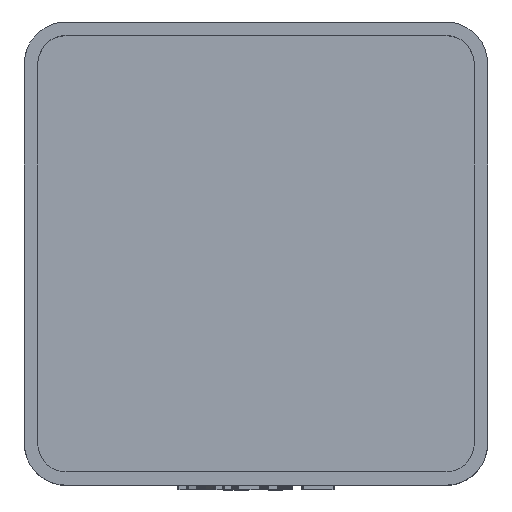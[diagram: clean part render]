
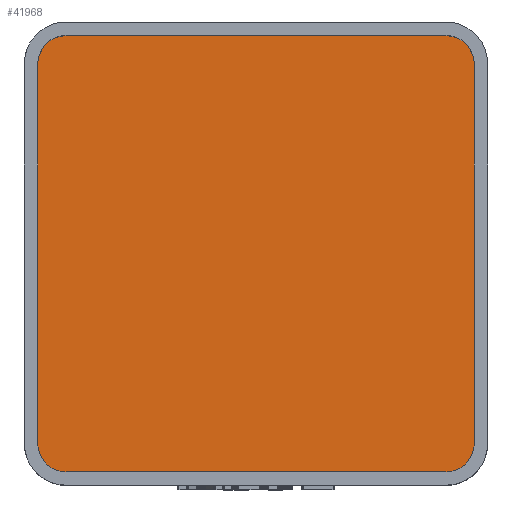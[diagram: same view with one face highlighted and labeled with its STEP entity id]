
A CAD part, top view. The second image highlights one B-rep face of the part: STEP entity #41968.
In plain terms, the highlighted planar face has unit normal (0, 0, 1).
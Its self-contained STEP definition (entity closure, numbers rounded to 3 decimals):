
#1442 = PLANE('',#1443);
#1443 = AXIS2_PLACEMENT_3D('',#1444,#1445,#1446);
#1444 = CARTESIAN_POINT('',(-19.55,-17.,4.75));
#1445 = DIRECTION('',(-1.,0.,0.));
#1446 = DIRECTION('',(0.,1.,0.));
#1474 = CYLINDRICAL_SURFACE('',#1475,2.55);
#1475 = AXIS2_PLACEMENT_3D('',#1476,#1477,#1478);
#1476 = CARTESIAN_POINT('',(-17.,17.,4.75));
#1477 = DIRECTION('',(-0.,-0.,-1.));
#1478 = DIRECTION('',(1.,0.,0.));
#1501 = PLANE('',#1502);
#1502 = AXIS2_PLACEMENT_3D('',#1503,#1504,#1505);
#1503 = CARTESIAN_POINT('',(-17.,19.55,4.75));
#1504 = DIRECTION('',(0.,1.,0.));
#1505 = DIRECTION('',(1.,0.,0.));
#1533 = CYLINDRICAL_SURFACE('',#1534,2.55);
#1534 = AXIS2_PLACEMENT_3D('',#1535,#1536,#1537);
#1535 = CARTESIAN_POINT('',(17.,17.,4.75));
#1536 = DIRECTION('',(-0.,-0.,-1.));
#1537 = DIRECTION('',(1.,0.,0.));
#1560 = PLANE('',#1561);
#1561 = AXIS2_PLACEMENT_3D('',#1562,#1563,#1564);
#1562 = CARTESIAN_POINT('',(19.55,-17.,4.75));
#1563 = DIRECTION('',(-1.,0.,0.));
#1564 = DIRECTION('',(0.,1.,0.));
#1592 = CYLINDRICAL_SURFACE('',#1593,2.55);
#1593 = AXIS2_PLACEMENT_3D('',#1594,#1595,#1596);
#1594 = CARTESIAN_POINT('',(17.,-17.,4.75));
#1595 = DIRECTION('',(-0.,-0.,-1.));
#1596 = DIRECTION('',(1.,0.,0.));
#1619 = PLANE('',#1620);
#1620 = AXIS2_PLACEMENT_3D('',#1621,#1622,#1623);
#1621 = CARTESIAN_POINT('',(-17.,-19.55,4.75));
#1622 = DIRECTION('',(0.,1.,0.));
#1623 = DIRECTION('',(1.,0.,0.));
#1649 = CYLINDRICAL_SURFACE('',#1650,2.55);
#1650 = AXIS2_PLACEMENT_3D('',#1651,#1652,#1653);
#1651 = CARTESIAN_POINT('',(-17.,-17.,4.75));
#1652 = DIRECTION('',(-0.,-0.,-1.));
#1653 = DIRECTION('',(1.,0.,0.));
#15571 = EDGE_CURVE('',#15572,#15574,#15576,.T.);
#15572 = VERTEX_POINT('',#15573);
#15573 = CARTESIAN_POINT('',(-19.55,-17.,4.75));
#15574 = VERTEX_POINT('',#15575);
#15575 = CARTESIAN_POINT('',(-19.55,17.,4.75));
#15576 = SURFACE_CURVE('',#15577,(#15581,#15588),.PCURVE_S1.);
#15577 = LINE('',#15578,#15579);
#15578 = CARTESIAN_POINT('',(-19.55,0.,4.75));
#15579 = VECTOR('',#15580,1.);
#15580 = DIRECTION('',(0.,1.,0.));
#15581 = PCURVE('',#1442,#15582);
#15582 = DEFINITIONAL_REPRESENTATION('',(#15583),#15587);
#15583 = LINE('',#15584,#15585);
#15584 = CARTESIAN_POINT('',(17.,0.));
#15585 = VECTOR('',#15586,1.);
#15586 = DIRECTION('',(1.,0.));
#15587 = ( GEOMETRIC_REPRESENTATION_CONTEXT(2) 
PARAMETRIC_REPRESENTATION_CONTEXT() REPRESENTATION_CONTEXT('2D SPACE',''
  ) );
#15588 = PCURVE('',#15589,#15594);
#15589 = PLANE('',#15590);
#15590 = AXIS2_PLACEMENT_3D('',#15591,#15592,#15593);
#15591 = CARTESIAN_POINT('',(0.,0.,4.75
    ));
#15592 = DIRECTION('',(0.,0.,1.));
#15593 = DIRECTION('',(1.,0.,-0.));
#15594 = DEFINITIONAL_REPRESENTATION('',(#15595),#15599);
#15595 = LINE('',#15596,#15597);
#15596 = CARTESIAN_POINT('',(-19.55,0.));
#15597 = VECTOR('',#15598,1.);
#15598 = DIRECTION('',(0.,1.));
#15599 = ( GEOMETRIC_REPRESENTATION_CONTEXT(2) 
PARAMETRIC_REPRESENTATION_CONTEXT() REPRESENTATION_CONTEXT('2D SPACE',''
  ) );
#15647 = EDGE_CURVE('',#15572,#15648,#15650,.T.);
#15648 = VERTEX_POINT('',#15649);
#15649 = CARTESIAN_POINT('',(-17.,-19.55,4.75));
#15650 = SURFACE_CURVE('',#15651,(#15656,#15663),.PCURVE_S1.);
#15651 = CIRCLE('',#15652,2.55);
#15652 = AXIS2_PLACEMENT_3D('',#15653,#15654,#15655);
#15653 = CARTESIAN_POINT('',(-17.,-17.,4.75));
#15654 = DIRECTION('',(0.,0.,1.));
#15655 = DIRECTION('',(1.,0.,0.));
#15656 = PCURVE('',#1649,#15657);
#15657 = DEFINITIONAL_REPRESENTATION('',(#15658),#15662);
#15658 = LINE('',#15659,#15660);
#15659 = CARTESIAN_POINT('',(-0.,0.));
#15660 = VECTOR('',#15661,1.);
#15661 = DIRECTION('',(-1.,0.));
#15662 = ( GEOMETRIC_REPRESENTATION_CONTEXT(2) 
PARAMETRIC_REPRESENTATION_CONTEXT() REPRESENTATION_CONTEXT('2D SPACE',''
  ) );
#15663 = PCURVE('',#15589,#15664);
#15664 = DEFINITIONAL_REPRESENTATION('',(#15665),#15669);
#15665 = CIRCLE('',#15666,2.55);
#15666 = AXIS2_PLACEMENT_2D('',#15667,#15668);
#15667 = CARTESIAN_POINT('',(-17.,-17.));
#15668 = DIRECTION('',(1.,0.));
#15669 = ( GEOMETRIC_REPRESENTATION_CONTEXT(2) 
PARAMETRIC_REPRESENTATION_CONTEXT() REPRESENTATION_CONTEXT('2D SPACE',''
  ) );
#15697 = EDGE_CURVE('',#15648,#15698,#15700,.T.);
#15698 = VERTEX_POINT('',#15699);
#15699 = CARTESIAN_POINT('',(17.,-19.55,4.75));
#15700 = SURFACE_CURVE('',#15701,(#15705,#15712),.PCURVE_S1.);
#15701 = LINE('',#15702,#15703);
#15702 = CARTESIAN_POINT('',(0.,-19.55,4.75));
#15703 = VECTOR('',#15704,1.);
#15704 = DIRECTION('',(1.,0.,0.));
#15705 = PCURVE('',#1619,#15706);
#15706 = DEFINITIONAL_REPRESENTATION('',(#15707),#15711);
#15707 = LINE('',#15708,#15709);
#15708 = CARTESIAN_POINT('',(17.,0.));
#15709 = VECTOR('',#15710,1.);
#15710 = DIRECTION('',(1.,0.));
#15711 = ( GEOMETRIC_REPRESENTATION_CONTEXT(2) 
PARAMETRIC_REPRESENTATION_CONTEXT() REPRESENTATION_CONTEXT('2D SPACE',''
  ) );
#15712 = PCURVE('',#15589,#15713);
#15713 = DEFINITIONAL_REPRESENTATION('',(#15714),#15718);
#15714 = LINE('',#15715,#15716);
#15715 = CARTESIAN_POINT('',(0.,-19.55));
#15716 = VECTOR('',#15717,1.);
#15717 = DIRECTION('',(1.,0.));
#15718 = ( GEOMETRIC_REPRESENTATION_CONTEXT(2) 
PARAMETRIC_REPRESENTATION_CONTEXT() REPRESENTATION_CONTEXT('2D SPACE',''
  ) );
#15746 = EDGE_CURVE('',#15698,#15747,#15749,.T.);
#15747 = VERTEX_POINT('',#15748);
#15748 = CARTESIAN_POINT('',(19.55,-17.,4.75));
#15749 = SURFACE_CURVE('',#15750,(#15755,#15762),.PCURVE_S1.);
#15750 = CIRCLE('',#15751,2.55);
#15751 = AXIS2_PLACEMENT_3D('',#15752,#15753,#15754);
#15752 = CARTESIAN_POINT('',(17.,-17.,4.75));
#15753 = DIRECTION('',(0.,0.,1.));
#15754 = DIRECTION('',(1.,0.,0.));
#15755 = PCURVE('',#1592,#15756);
#15756 = DEFINITIONAL_REPRESENTATION('',(#15757),#15761);
#15757 = LINE('',#15758,#15759);
#15758 = CARTESIAN_POINT('',(-0.,0.));
#15759 = VECTOR('',#15760,1.);
#15760 = DIRECTION('',(-1.,0.));
#15761 = ( GEOMETRIC_REPRESENTATION_CONTEXT(2) 
PARAMETRIC_REPRESENTATION_CONTEXT() REPRESENTATION_CONTEXT('2D SPACE',''
  ) );
#15762 = PCURVE('',#15589,#15763);
#15763 = DEFINITIONAL_REPRESENTATION('',(#15764),#15768);
#15764 = CIRCLE('',#15765,2.55);
#15765 = AXIS2_PLACEMENT_2D('',#15766,#15767);
#15766 = CARTESIAN_POINT('',(17.,-17.));
#15767 = DIRECTION('',(1.,0.));
#15768 = ( GEOMETRIC_REPRESENTATION_CONTEXT(2) 
PARAMETRIC_REPRESENTATION_CONTEXT() REPRESENTATION_CONTEXT('2D SPACE',''
  ) );
#15796 = EDGE_CURVE('',#15747,#15797,#15799,.T.);
#15797 = VERTEX_POINT('',#15798);
#15798 = CARTESIAN_POINT('',(19.55,17.,4.75));
#15799 = SURFACE_CURVE('',#15800,(#15804,#15811),.PCURVE_S1.);
#15800 = LINE('',#15801,#15802);
#15801 = CARTESIAN_POINT('',(19.55,0.,4.75));
#15802 = VECTOR('',#15803,1.);
#15803 = DIRECTION('',(0.,1.,0.));
#15804 = PCURVE('',#1560,#15805);
#15805 = DEFINITIONAL_REPRESENTATION('',(#15806),#15810);
#15806 = LINE('',#15807,#15808);
#15807 = CARTESIAN_POINT('',(17.,0.));
#15808 = VECTOR('',#15809,1.);
#15809 = DIRECTION('',(1.,0.));
#15810 = ( GEOMETRIC_REPRESENTATION_CONTEXT(2) 
PARAMETRIC_REPRESENTATION_CONTEXT() REPRESENTATION_CONTEXT('2D SPACE',''
  ) );
#15811 = PCURVE('',#15589,#15812);
#15812 = DEFINITIONAL_REPRESENTATION('',(#15813),#15817);
#15813 = LINE('',#15814,#15815);
#15814 = CARTESIAN_POINT('',(19.55,0.));
#15815 = VECTOR('',#15816,1.);
#15816 = DIRECTION('',(0.,1.));
#15817 = ( GEOMETRIC_REPRESENTATION_CONTEXT(2) 
PARAMETRIC_REPRESENTATION_CONTEXT() REPRESENTATION_CONTEXT('2D SPACE',''
  ) );
#15845 = EDGE_CURVE('',#15797,#15846,#15848,.T.);
#15846 = VERTEX_POINT('',#15847);
#15847 = CARTESIAN_POINT('',(17.,19.55,4.75));
#15848 = SURFACE_CURVE('',#15849,(#15854,#15861),.PCURVE_S1.);
#15849 = CIRCLE('',#15850,2.55);
#15850 = AXIS2_PLACEMENT_3D('',#15851,#15852,#15853);
#15851 = CARTESIAN_POINT('',(17.,17.,4.75));
#15852 = DIRECTION('',(0.,0.,1.));
#15853 = DIRECTION('',(1.,0.,0.));
#15854 = PCURVE('',#1533,#15855);
#15855 = DEFINITIONAL_REPRESENTATION('',(#15856),#15860);
#15856 = LINE('',#15857,#15858);
#15857 = CARTESIAN_POINT('',(-0.,0.));
#15858 = VECTOR('',#15859,1.);
#15859 = DIRECTION('',(-1.,0.));
#15860 = ( GEOMETRIC_REPRESENTATION_CONTEXT(2) 
PARAMETRIC_REPRESENTATION_CONTEXT() REPRESENTATION_CONTEXT('2D SPACE',''
  ) );
#15861 = PCURVE('',#15589,#15862);
#15862 = DEFINITIONAL_REPRESENTATION('',(#15863),#15867);
#15863 = CIRCLE('',#15864,2.55);
#15864 = AXIS2_PLACEMENT_2D('',#15865,#15866);
#15865 = CARTESIAN_POINT('',(17.,17.));
#15866 = DIRECTION('',(1.,0.));
#15867 = ( GEOMETRIC_REPRESENTATION_CONTEXT(2) 
PARAMETRIC_REPRESENTATION_CONTEXT() REPRESENTATION_CONTEXT('2D SPACE',''
  ) );
#15895 = EDGE_CURVE('',#15896,#15846,#15898,.T.);
#15896 = VERTEX_POINT('',#15897);
#15897 = CARTESIAN_POINT('',(-17.,19.55,4.75));
#15898 = SURFACE_CURVE('',#15899,(#15903,#15910),.PCURVE_S1.);
#15899 = LINE('',#15900,#15901);
#15900 = CARTESIAN_POINT('',(0.,19.55,4.75));
#15901 = VECTOR('',#15902,1.);
#15902 = DIRECTION('',(1.,0.,0.));
#15903 = PCURVE('',#1501,#15904);
#15904 = DEFINITIONAL_REPRESENTATION('',(#15905),#15909);
#15905 = LINE('',#15906,#15907);
#15906 = CARTESIAN_POINT('',(17.,0.));
#15907 = VECTOR('',#15908,1.);
#15908 = DIRECTION('',(1.,0.));
#15909 = ( GEOMETRIC_REPRESENTATION_CONTEXT(2) 
PARAMETRIC_REPRESENTATION_CONTEXT() REPRESENTATION_CONTEXT('2D SPACE',''
  ) );
#15910 = PCURVE('',#15589,#15911);
#15911 = DEFINITIONAL_REPRESENTATION('',(#15912),#15916);
#15912 = LINE('',#15913,#15914);
#15913 = CARTESIAN_POINT('',(0.,19.55));
#15914 = VECTOR('',#15915,1.);
#15915 = DIRECTION('',(1.,0.));
#15916 = ( GEOMETRIC_REPRESENTATION_CONTEXT(2) 
PARAMETRIC_REPRESENTATION_CONTEXT() REPRESENTATION_CONTEXT('2D SPACE',''
  ) );
#15944 = EDGE_CURVE('',#15896,#15574,#15945,.T.);
#15945 = SURFACE_CURVE('',#15946,(#15951,#15958),.PCURVE_S1.);
#15946 = CIRCLE('',#15947,2.55);
#15947 = AXIS2_PLACEMENT_3D('',#15948,#15949,#15950);
#15948 = CARTESIAN_POINT('',(-17.,17.,4.75));
#15949 = DIRECTION('',(0.,0.,1.));
#15950 = DIRECTION('',(1.,0.,0.));
#15951 = PCURVE('',#1474,#15952);
#15952 = DEFINITIONAL_REPRESENTATION('',(#15953),#15957);
#15953 = LINE('',#15954,#15955);
#15954 = CARTESIAN_POINT('',(-0.,0.));
#15955 = VECTOR('',#15956,1.);
#15956 = DIRECTION('',(-1.,0.));
#15957 = ( GEOMETRIC_REPRESENTATION_CONTEXT(2) 
PARAMETRIC_REPRESENTATION_CONTEXT() REPRESENTATION_CONTEXT('2D SPACE',''
  ) );
#15958 = PCURVE('',#15589,#15959);
#15959 = DEFINITIONAL_REPRESENTATION('',(#15960),#15964);
#15960 = CIRCLE('',#15961,2.55);
#15961 = AXIS2_PLACEMENT_2D('',#15962,#15963);
#15962 = CARTESIAN_POINT('',(-17.,17.));
#15963 = DIRECTION('',(1.,0.));
#15964 = ( GEOMETRIC_REPRESENTATION_CONTEXT(2) 
PARAMETRIC_REPRESENTATION_CONTEXT() REPRESENTATION_CONTEXT('2D SPACE',''
  ) );
#41968 = ADVANCED_FACE('',(#41969),#15589,.T.);
#41969 = FACE_BOUND('',#41970,.T.);
#41970 = EDGE_LOOP('',(#41971,#41972,#41973,#41974,#41975,#41976,#41977,
    #41978));
#41971 = ORIENTED_EDGE('',*,*,#15571,.F.);
#41972 = ORIENTED_EDGE('',*,*,#15647,.T.);
#41973 = ORIENTED_EDGE('',*,*,#15697,.T.);
#41974 = ORIENTED_EDGE('',*,*,#15746,.T.);
#41975 = ORIENTED_EDGE('',*,*,#15796,.T.);
#41976 = ORIENTED_EDGE('',*,*,#15845,.T.);
#41977 = ORIENTED_EDGE('',*,*,#15895,.F.);
#41978 = ORIENTED_EDGE('',*,*,#15944,.T.);
